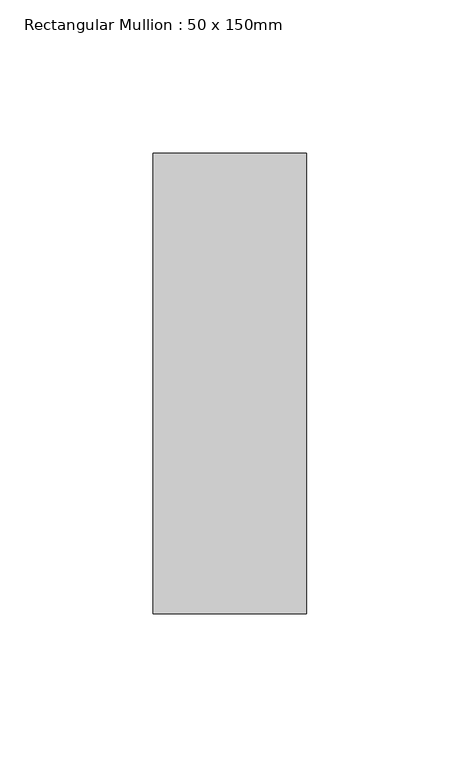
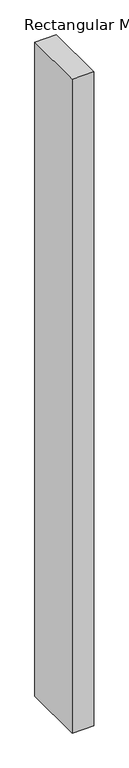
"""IFC4 building model written with IfcOpenShell, lengths in millimetres: member geometry, Rectangular Mullion : 50 x 150mm."""

from ifc_helpers import new_model, si_unit, frame, origin, place, context, project, spatial, polyline, outline, extrude, source, transform, mapped, element, save


def rectangular_mullion_50_x_150mm_42a3c315(model_context):
    return source(origin(), model_context, "Body", "SweptSolid", [
        extrude(outline(polyline([(0.0, 75.0), (0.0, -75.0), (-50.0, -75.0), (-50.0, 75.0), (0.0, 75.0)])), frame((0.0, 0.0, -1608.8341808), z_axis=(0.0, 0.0, 1.0), x_axis=(1.0, 0.0, 0.0)), (0.0, 0.0, 1.0), 1608.8341808),
    ])


if __name__ == "__main__":
    model = new_model("IFC4")
    model_context = context("Model", 3, world=origin())
    ifc_project = project(units=[si_unit("LENGTHUNIT", "METRE", prefix="MILLI")], contexts=[model_context])
    site = spatial("IfcSite", under=ifc_project)
    building = spatial("IfcBuilding", under=site)
    placement = place(None, origin())
    rectangular_mullion_50_x_150mm_shape = rectangular_mullion_50_x_150mm_42a3c315(model_context)
    element("IfcMember", 1, ObjectType="Rectangular Mullion : 50 x 150mm", at=placement, inside=building, context=model_context, shape_type="MappedRepresentation", body=[
        mapped(rectangular_mullion_50_x_150mm_shape, transform((0.0, 0.0, 0.0), x_axis=(1.0, 0.0, 0.0), y_axis=(0.0, 1.0, 0.0), z_axis=(0.0, 0.0, 1.0))),
    ])
    save(model, "model.ifc")
